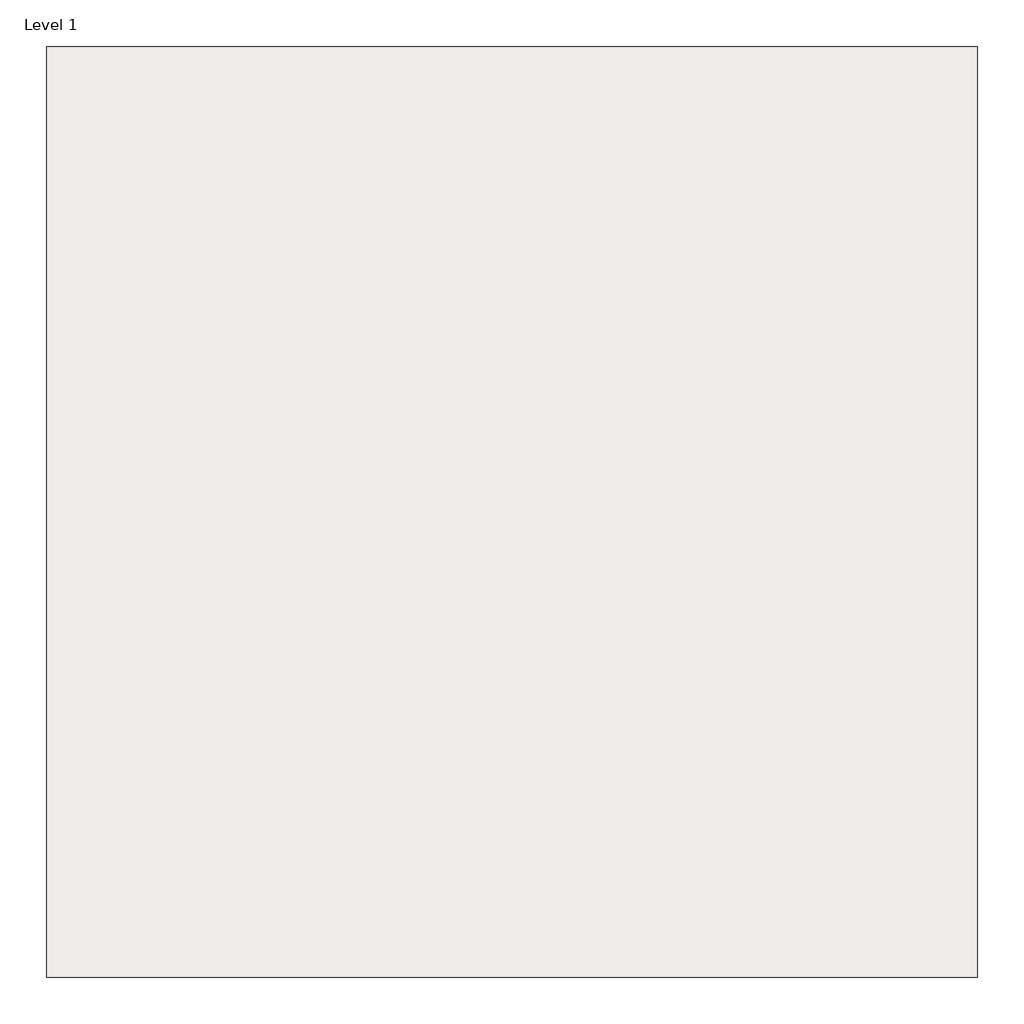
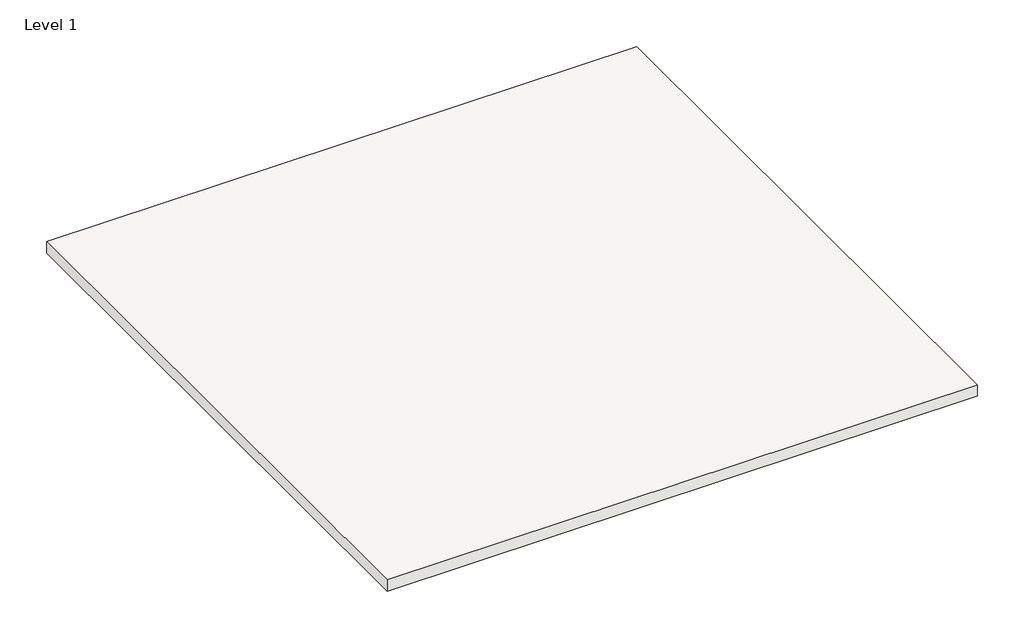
# One storey: 1 covering.
"""IFC4 building model written with IfcOpenShell, lengths in millimetres."""

from ifc_helpers import new_model, si_unit, origin, origin_with_axes, place, context, project, spatial, polyline, outline, extrude, element, save

model = new_model("IFC4")

# Units and contexts
model_context = context("Model", 3, world=origin())
ifc_project = project(units=[si_unit("LENGTHUNIT", "METRE", prefix="MILLI")], contexts=[model_context])

# Site, building, storey
site = spatial("IfcSite", under=ifc_project)
building = spatial("IfcBuilding", under=site)
storey = spatial("IfcBuildingStorey", under=building, Name="Level 1", Elevation=0.0)

# Covering
placement = place(None, origin())
element("IfcCovering", 1, ObjectType="RIGIPS - 4.10.18 - EI 60, REI 60 - 30dB", at=placement, inside=storey, context=model_context, shape_type="SweptSolid", body=[
    extrude(outline(polyline([(-1500.0, 1500.0), (1500.0, 1500.0), (1500.0, -1500.0), (-1500.0, -1500.0), (-1500.0, 1500.0)])), origin_with_axes(), (0.0, 0.0, 1.0), 60.0),
])

save(model, "model.ifc")
